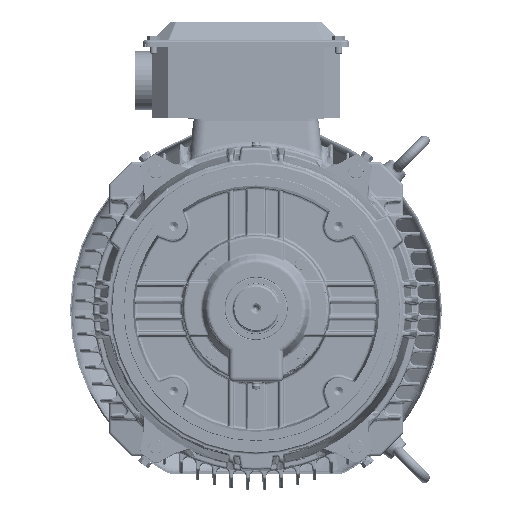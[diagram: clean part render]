
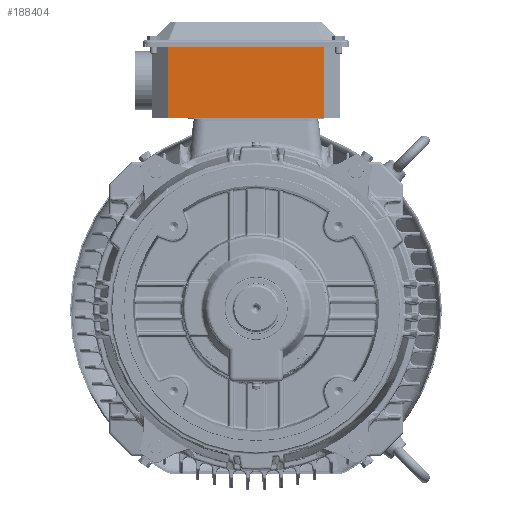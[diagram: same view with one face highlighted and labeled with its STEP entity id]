
A CAD part, top view. The second image highlights one B-rep face of the part: STEP entity #188404.
In plain terms, the highlighted planar face has unit normal (0, 0, 1).
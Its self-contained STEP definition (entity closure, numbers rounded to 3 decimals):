
#8301 = CARTESIAN_POINT ( 'NONE',  ( -5.252, 9.016, 7.795 ) ) ;
#10087 = DIRECTION ( 'NONE',  ( -1., 0., 0. ) ) ;
#13618 = LINE ( 'NONE', #8301, #145900 ) ;
#25699 = ORIENTED_EDGE ( 'NONE', *, *, #301408, .T. ) ;
#25823 = VERTEX_POINT ( 'NONE', #52080 ) ;
#27633 = VERTEX_POINT ( 'NONE', #146966 ) ;
#52080 = CARTESIAN_POINT ( 'NONE',  ( -4.165, 9.016, 7.795 ) ) ;
#66011 = DIRECTION ( 'NONE',  ( 0., -1., 0. ) ) ;
#79936 = DIRECTION ( 'NONE',  ( 0., 1., 0. ) ) ;
#81105 = VECTOR ( 'NONE', #171226, 39.37 ) ;
#84686 = VECTOR ( 'NONE', #150748, 39.37 ) ;
#94915 = LINE ( 'NONE', #98465, #275268 ) ;
#98465 = CARTESIAN_POINT ( 'NONE',  ( -4.165, 12.382, 7.795 ) ) ;
#111552 = ORIENTED_EDGE ( 'NONE', *, *, #346681, .F. ) ;
#139266 = EDGE_CURVE ( 'NONE', #237867, #27633, #165894, .T. ) ;
#145900 = VECTOR ( 'NONE', #10087, 39.37 ) ;
#146966 = CARTESIAN_POINT ( 'NONE',  ( 3.22, 12.382, 7.795 ) ) ;
#150748 = DIRECTION ( 'NONE',  ( -1., 0., 0. ) ) ;
#157906 = ORIENTED_EDGE ( 'NONE', *, *, #139266, .T. ) ;
#165894 = LINE ( 'NONE', #337524, #81105 ) ;
#171226 = DIRECTION ( 'NONE',  ( 0., 1., 0. ) ) ;
#180428 = EDGE_LOOP ( 'NONE', ( #25699, #232625, #111552, #157906 ) ) ;
#183070 = PLANE ( 'NONE',  #321146 ) ;
#188404 = ADVANCED_FACE ( 'NONE', ( #240844 ), #183070, .F. ) ;
#217286 = CARTESIAN_POINT ( 'NONE',  ( 6.146, 12.382, 7.795 ) ) ;
#232625 = ORIENTED_EDGE ( 'NONE', *, *, #238826, .T. ) ;
#237867 = VERTEX_POINT ( 'NONE', #272642 ) ;
#238826 = EDGE_CURVE ( 'NONE', #301456, #25823, #94915, .T. ) ;
#240844 = FACE_OUTER_BOUND ( 'NONE', #180428, .T. ) ;
#242310 = LINE ( 'NONE', #352545, #84686 ) ;
#242640 = DIRECTION ( 'NONE',  ( 0., 0., -1. ) ) ;
#272642 = CARTESIAN_POINT ( 'NONE',  ( 3.22, 9.016, 7.795 ) ) ;
#275268 = VECTOR ( 'NONE', #66011, 39.37 ) ;
#276559 = CARTESIAN_POINT ( 'NONE',  ( -4.165, 12.382, 7.795 ) ) ;
#301408 = EDGE_CURVE ( 'NONE', #27633, #301456, #242310, .T. ) ;
#301456 = VERTEX_POINT ( 'NONE', #276559 ) ;
#321146 = AXIS2_PLACEMENT_3D ( 'NONE', #217286, #242640, #79936 ) ;
#337524 = CARTESIAN_POINT ( 'NONE',  ( 3.22, 12.382, 7.795 ) ) ;
#346681 = EDGE_CURVE ( 'NONE', #237867, #25823, #13618, .T. ) ;
#352545 = CARTESIAN_POINT ( 'NONE',  ( 6.146, 12.382, 7.795 ) ) ;
